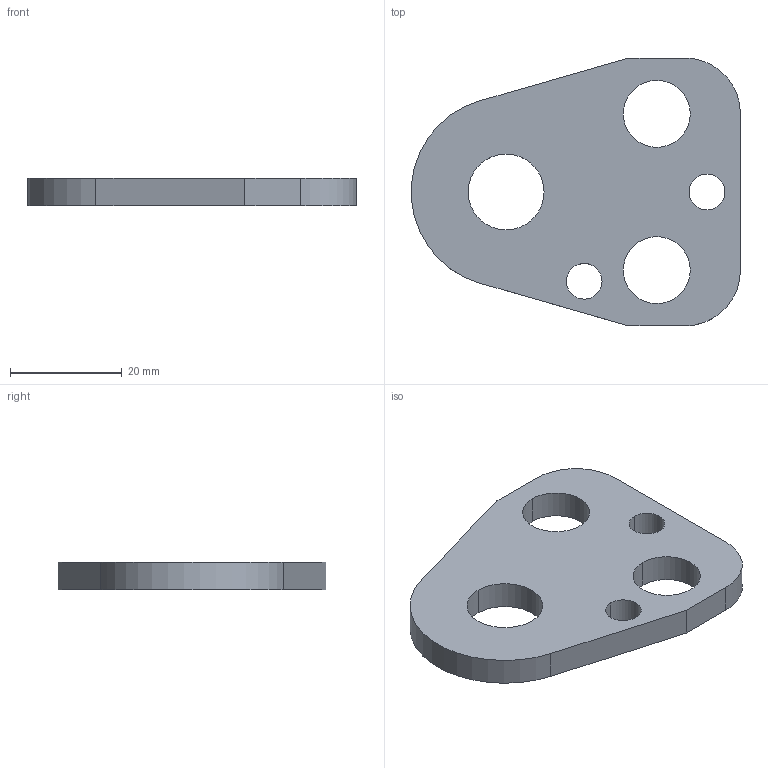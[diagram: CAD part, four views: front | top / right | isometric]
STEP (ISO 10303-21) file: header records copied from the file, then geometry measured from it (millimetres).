
FILE_DESCRIPTION(/* description */ (''),/* implementation_level */ '2;1');
FILE_NAME(/* name */ '3d_bdc20_03365_r00.stp',/* time_stamp */ '2011-01-10T14:17:24+09:00',/* author */ ('MISUMI'),/* organization */ (''),/* preprocessor_version */ 'ST-DEVELOPER v11',/* originating_system */ 'UGS - NX 5.0',/* authorisation */ '');
FILE_SCHEMA (('CONFIG_CONTROL_DESIGN'));
Length unit declared in the file: millimetre
Products named in the file (1): 3d_bdc20_03365_r00
Bounding box: 58.94 x 48 x 5 mm (x, y, z)
Volume: 9272.5 mm3; surface area: 5395 mm2
Topology: 1 solids, 1 shells, 20 faces, 54 edges, 36 vertices
Faces by surface type: cylinder 13, plane 7
Entity records: 750 total; most frequent: DIRECTION 122, CARTESIAN_POINT 111, ORIENTED_EDGE 108, EDGE_CURVE 54, AXIS2_PLACEMENT_3D 47, VERTEX_POINT 36, EDGE_LOOP 30, LINE 28
